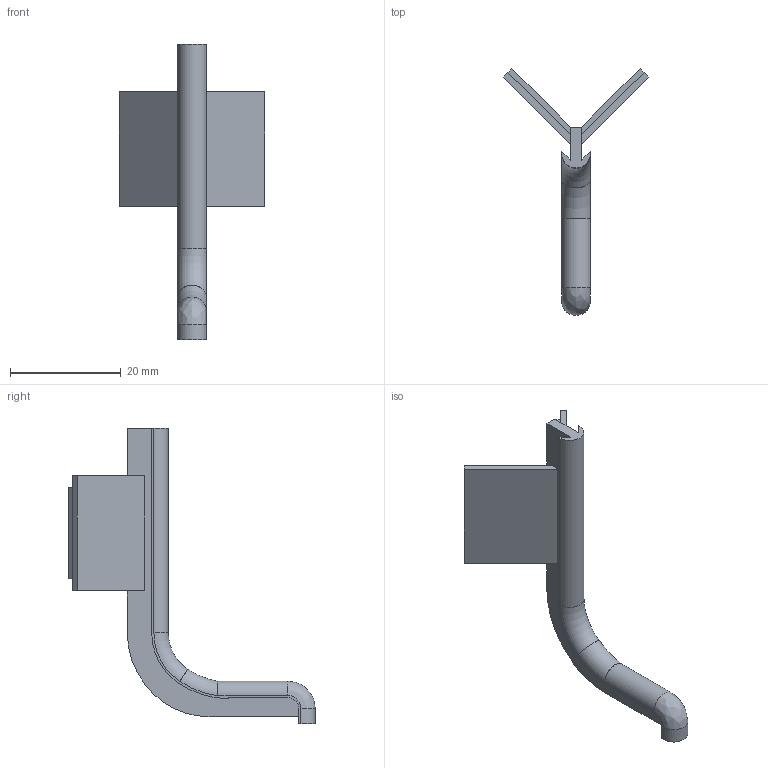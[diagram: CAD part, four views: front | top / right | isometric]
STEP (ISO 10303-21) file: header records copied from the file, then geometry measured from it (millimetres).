
FILE_DESCRIPTION( ( 'STEP AP214' ), '1' );
FILE_NAME( 'C:/Users/swati/Desktop/10-03-2016/15-03-2016/9210122/9210122.stp', ' ', ( ' ' ), ( ' ' ), 'PSStep 15.0.47', 'PARTsolutions', ' ' );
FILE_SCHEMA( ( 'AUTOMOTIVE_DESIGN { 1 0 10303 214 1 1 1 1 }' ) );
Length unit declared in the file: millimetre
Products named in the file (2): 95 ; _
Assembly tree (1 placements, depth 2):
  95 
    _
Bounding box: 26.32 x 44.61 x 53.5 mm (x, y, z)
Volume: 2698.7 mm3; surface area: 3486.8 mm2
Topology: 1 solids, 1 shells, 57 faces, 161 edges, 106 vertices
Faces by surface type: plane 43, cone 6, cylinder 5, torus 2, bspline 1
Entity records: 2403 total; most frequent: CARTESIAN_POINT 421, ORIENTED_EDGE 322, DIRECTION 300, EDGE_CURVE 161, LINE 122, VECTOR 122, VERTEX_POINT 106, AXIS2_PLACEMENT_3D 89
